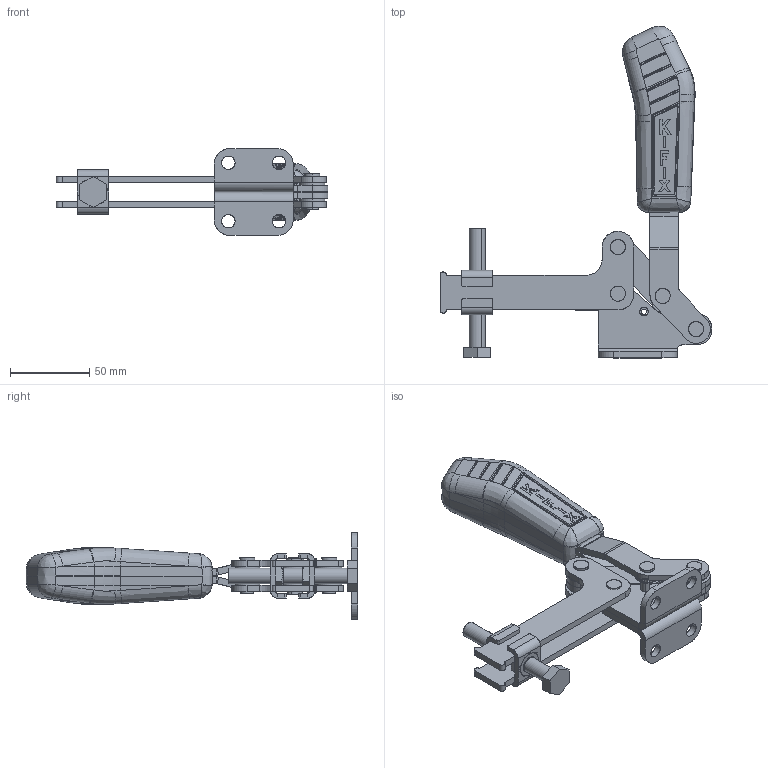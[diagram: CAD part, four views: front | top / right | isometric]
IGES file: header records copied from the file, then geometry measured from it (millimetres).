
Start section: SolidWorks IGES file using analytic representation for surfaces
Global section: file name: C:\Projetos\Grampos\KF-631\KF-631 DL\KF-631 DL.IGS; native system: SolidWorks 2013; preprocessor: SolidWorks 2013; author: Ricardo; date: 140801.150922; units: millimetre
Bounding box: 172 x 209.91 x 55 mm (x, y, z)
Surface area: 89019.4 mm2 (no closed solid volume)
Topology: 0 solids, 0 shells, 862 faces, 9990 edges, 9963 vertices
Faces by surface type: bspline 443, revolution 419
